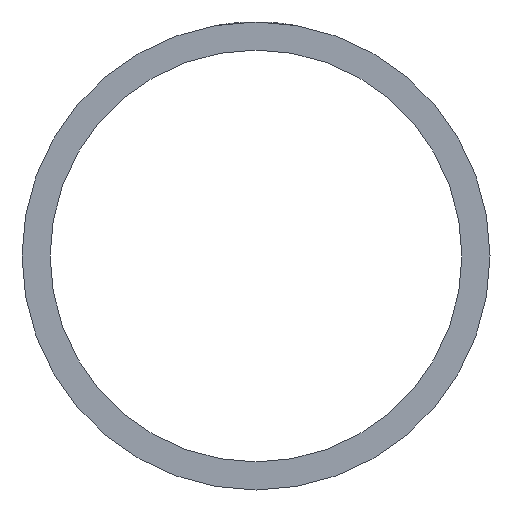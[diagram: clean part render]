
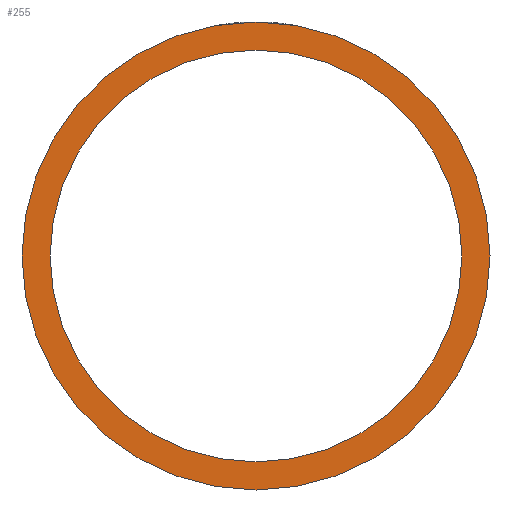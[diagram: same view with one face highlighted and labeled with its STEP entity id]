
A CAD part, front view. The second image highlights one B-rep face of the part: STEP entity #255.
In plain terms, the highlighted planar face has unit normal (0, -1, 0).
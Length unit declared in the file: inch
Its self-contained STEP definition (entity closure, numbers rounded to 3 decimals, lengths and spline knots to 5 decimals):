
#2 = DIRECTION ( 'NONE',  ( 0., 0., 1. ) ) ;
#4 = CARTESIAN_POINT ( 'NONE',  ( 0., 0., 0. ) ) ;
#8 = CARTESIAN_POINT ( 'NONE',  ( 0., 0., -1. ) ) ;
#11 = PLANE ( 'NONE',  #448 ) ;
#12 = CARTESIAN_POINT ( 'NONE',  ( 0., 0., 0.88 ) ) ;
#13 = CARTESIAN_POINT ( 'NONE',  ( 0., 0., 1. ) ) ;
#14 = DIRECTION ( 'NONE',  ( 0., 1., 0. ) ) ;
#19 = CARTESIAN_POINT ( 'NONE',  ( 0., 0., -0.88 ) ) ;
#46 = CARTESIAN_POINT ( 'NONE',  ( 0., 0., 0. ) ) ;
#49 = DIRECTION ( 'NONE',  ( 0., 1., 0. ) ) ;
#50 = DIRECTION ( 'NONE',  ( 0., 0., 1. ) ) ;
#157 = DIRECTION ( 'NONE',  ( 0., 1., 0. ) ) ;
#159 = CARTESIAN_POINT ( 'NONE',  ( 0., 0., 0. ) ) ;
#162 = CARTESIAN_POINT ( 'NONE',  ( 0., 0., 0. ) ) ;
#167 = DIRECTION ( 'NONE',  ( 0., 0., 1. ) ) ;
#168 = DIRECTION ( 'NONE',  ( 1., 0., 0. ) ) ;
#169 = DIRECTION ( 'NONE',  ( 0., 1., 0. ) ) ;
#181 = DIRECTION ( 'NONE',  ( 0., 1., 0. ) ) ;
#208 = DIRECTION ( 'NONE',  ( 1., 0., 0. ) ) ;
#211 = CARTESIAN_POINT ( 'NONE',  ( 0., 0., 0. ) ) ;
#255 = ADVANCED_FACE ( 'NONE', ( #295, #294 ), #11, .F. ) ;
#284 = EDGE_LOOP ( 'NONE', ( #360, #312 ) ) ;
#293 = ORIENTED_EDGE ( 'NONE', *, *, #474, .T. ) ;
#294 = FACE_BOUND ( 'NONE', #296, .T. ) ;
#295 = FACE_OUTER_BOUND ( 'NONE', #284, .T. ) ;
#296 = EDGE_LOOP ( 'NONE', ( #348, #293 ) ) ;
#311 = VERTEX_POINT ( 'NONE', #8 ) ;
#312 = ORIENTED_EDGE ( 'NONE', *, *, #434, .F. ) ;
#343 = VERTEX_POINT ( 'NONE', #12 ) ;
#348 = ORIENTED_EDGE ( 'NONE', *, *, #470, .T. ) ;
#351 = VERTEX_POINT ( 'NONE', #13 ) ;
#358 = VERTEX_POINT ( 'NONE', #19 ) ;
#360 = ORIENTED_EDGE ( 'NONE', *, *, #471, .F. ) ;
#374 = CIRCLE ( 'NONE', #477, 0.88 ) ;
#375 = CIRCLE ( 'NONE', #483, 1. ) ;
#377 = CIRCLE ( 'NONE', #447, 0.88 ) ;
#405 = CIRCLE ( 'NONE', #479, 1. ) ;
#434 = EDGE_CURVE ( 'NONE', #351, #311, #375, .T. ) ;
#447 = AXIS2_PLACEMENT_3D ( 'NONE', #211, #181, #208 ) ;
#448 = AXIS2_PLACEMENT_3D ( 'NONE', #4, #14, #2 ) ;
#470 = EDGE_CURVE ( 'NONE', #358, #343, #374, .T. ) ;
#471 = EDGE_CURVE ( 'NONE', #311, #351, #405, .T. ) ;
#474 = EDGE_CURVE ( 'NONE', #343, #358, #377, .T. ) ;
#477 = AXIS2_PLACEMENT_3D ( 'NONE', #162, #169, #168 ) ;
#479 = AXIS2_PLACEMENT_3D ( 'NONE', #159, #157, #167 ) ;
#483 = AXIS2_PLACEMENT_3D ( 'NONE', #46, #49, #50 ) ;
